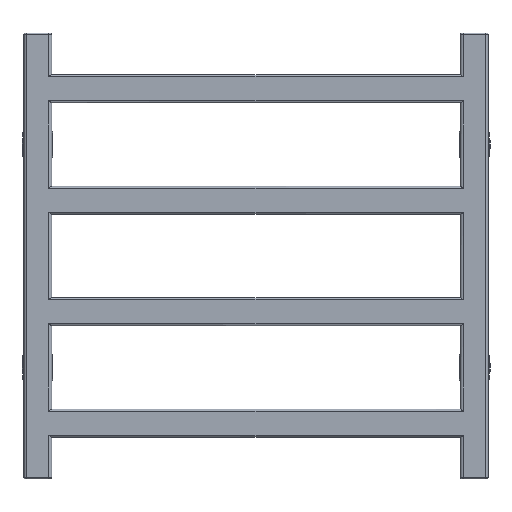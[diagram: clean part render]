
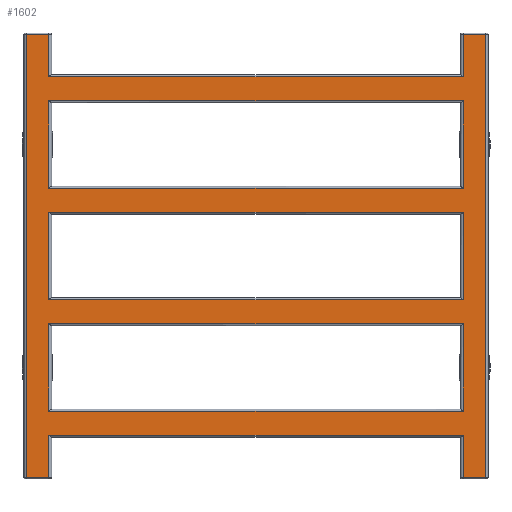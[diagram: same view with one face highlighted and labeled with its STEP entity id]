
A CAD part, front view. The second image highlights one B-rep face of the part: STEP entity #1602.
In plain terms, the highlighted planar face has unit normal (0, -1, 0).
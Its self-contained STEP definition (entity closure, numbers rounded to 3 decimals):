
#881=CARTESIAN_POINT('',(247.,-15.,478.5));
#882=VERTEX_POINT('',#881);
#891=CARTESIAN_POINT('',(223.,-15.,478.5));
#892=VERTEX_POINT('',#891);
#900=CARTESIAN_POINT('',(223.,-15.,478.5));
#901=DIRECTION('',(1.0,0.0,0.0));
#902=VECTOR('',#901,24.);
#903=LINE('',#900,#902);
#904=EDGE_CURVE('',#892,#882,#903,.T.);
#1394=CARTESIAN_POINT('',(247.,-15.,1.5));
#1395=VERTEX_POINT('',#1394);
#1396=CARTESIAN_POINT('',(247.,-15.,1.5));
#1397=DIRECTION('',(0.0,0.0,1.0));
#1398=VECTOR('',#1397,477.0);
#1399=LINE('',#1396,#1398);
#1400=EDGE_CURVE('',#1395,#882,#1399,.T.);
#1413=CARTESIAN_POINT('',(247.,-15.,0.0));
#1414=DIRECTION('',(0.0,-1.0,0.0));
#1415=DIRECTION('',(0.0,0.0,-1.0));
#1416=AXIS2_PLACEMENT_3D('',#1413,#1414,#1415);
#1417=PLANE('',#1416);
#1418=ORIENTED_EDGE('',*,*,#904,.F.);
#1419=CARTESIAN_POINT('',(223.,-15.,433.));
#1420=VERTEX_POINT('',#1419);
#1421=CARTESIAN_POINT('',(223.,-15.,433.));
#1422=DIRECTION('',(0.0,0.0,1.0));
#1423=VECTOR('',#1422,45.5);
#1424=LINE('',#1421,#1423);
#1425=EDGE_CURVE('',#1420,#892,#1424,.T.);
#1426=ORIENTED_EDGE('',*,*,#1425,.F.);
#1427=CARTESIAN_POINT('',(-223.,-15.,433.));
#1428=VERTEX_POINT('',#1427);
#1429=CARTESIAN_POINT('',(223.,-15.,433.0));
#1430=DIRECTION('',(-1.0,0.0,0.0));
#1431=VECTOR('',#1430,446.);
#1432=LINE('',#1429,#1431);
#1433=EDGE_CURVE('',#1420,#1428,#1432,.T.);
#1434=ORIENTED_EDGE('',*,*,#1433,.T.);
#1435=CARTESIAN_POINT('',(-223.,-15.,478.5));
#1436=VERTEX_POINT('',#1435);
#1437=CARTESIAN_POINT('',(-223.,-15.,433.));
#1438=DIRECTION('',(0.0,0.0,1.0));
#1439=VECTOR('',#1438,45.5);
#1440=LINE('',#1437,#1439);
#1441=EDGE_CURVE('',#1428,#1436,#1440,.T.);
#1442=ORIENTED_EDGE('',*,*,#1441,.T.);
#1443=CARTESIAN_POINT('',(-247.,-15.,478.5));
#1444=VERTEX_POINT('',#1443);
#1445=CARTESIAN_POINT('',(-247.,-15.,478.5));
#1446=DIRECTION('',(1.0,0.0,0.0));
#1447=VECTOR('',#1446,24.);
#1448=LINE('',#1445,#1447);
#1449=EDGE_CURVE('',#1444,#1436,#1448,.T.);
#1450=ORIENTED_EDGE('',*,*,#1449,.F.);
#1451=CARTESIAN_POINT('',(-247.,-15.,1.5));
#1452=VERTEX_POINT('',#1451);
#1453=CARTESIAN_POINT('',(-247.,-15.,1.5));
#1454=DIRECTION('',(0.0,0.0,1.0));
#1455=VECTOR('',#1454,477.0);
#1456=LINE('',#1453,#1455);
#1457=EDGE_CURVE('',#1452,#1444,#1456,.T.);
#1458=ORIENTED_EDGE('',*,*,#1457,.F.);
#1459=CARTESIAN_POINT('',(-223.,-15.,1.5));
#1460=VERTEX_POINT('',#1459);
#1461=CARTESIAN_POINT('',(-223.0,-15.,1.5));
#1462=DIRECTION('',(-1.0,0.0,0.0));
#1463=VECTOR('',#1462,24.);
#1464=LINE('',#1461,#1463);
#1465=EDGE_CURVE('',#1460,#1452,#1464,.T.);
#1466=ORIENTED_EDGE('',*,*,#1465,.F.);
#1467=CARTESIAN_POINT('',(-223.,-15.,47.));
#1468=VERTEX_POINT('',#1467);
#1469=CARTESIAN_POINT('',(-223.,-15.,1.5));
#1470=DIRECTION('',(0.0,0.0,1.0));
#1471=VECTOR('',#1470,45.5);
#1472=LINE('',#1469,#1471);
#1473=EDGE_CURVE('',#1460,#1468,#1472,.T.);
#1474=ORIENTED_EDGE('',*,*,#1473,.T.);
#1475=CARTESIAN_POINT('',(223.,-15.,47.));
#1476=VERTEX_POINT('',#1475);
#1477=CARTESIAN_POINT('',(-223.,-15.,47.));
#1478=DIRECTION('',(1.0,0.0,0.0));
#1479=VECTOR('',#1478,446.);
#1480=LINE('',#1477,#1479);
#1481=EDGE_CURVE('',#1468,#1476,#1480,.T.);
#1482=ORIENTED_EDGE('',*,*,#1481,.T.);
#1483=CARTESIAN_POINT('',(223.,-15.,1.5));
#1484=VERTEX_POINT('',#1483);
#1485=CARTESIAN_POINT('',(223.,-15.,1.5));
#1486=DIRECTION('',(0.0,0.0,1.0));
#1487=VECTOR('',#1486,45.5);
#1488=LINE('',#1485,#1487);
#1489=EDGE_CURVE('',#1484,#1476,#1488,.T.);
#1490=ORIENTED_EDGE('',*,*,#1489,.F.);
#1491=CARTESIAN_POINT('',(247.,-15.,1.5));
#1492=DIRECTION('',(-1.0,0.0,0.0));
#1493=VECTOR('',#1492,24.);
#1494=LINE('',#1491,#1493);
#1495=EDGE_CURVE('',#1395,#1484,#1494,.T.);
#1496=ORIENTED_EDGE('',*,*,#1495,.F.);
#1497=ORIENTED_EDGE('',*,*,#1400,.T.);
#1498=EDGE_LOOP('',(#1418,#1426,#1434,#1442,#1450,#1458,#1466,#1474,#1482,#1490,#1496,#1497));
#1499=FACE_OUTER_BOUND('',#1498,.T.);
#1500=CARTESIAN_POINT('',(-223.,-15.,73.));
#1501=VERTEX_POINT('',#1500);
#1502=CARTESIAN_POINT('',(223.,-15.,73.));
#1503=VERTEX_POINT('',#1502);
#1504=CARTESIAN_POINT('',(-223.,-15.,73.));
#1505=DIRECTION('',(1.0,0.0,0.0));
#1506=VECTOR('',#1505,446.);
#1507=LINE('',#1504,#1506);
#1508=EDGE_CURVE('',#1501,#1503,#1507,.T.);
#1509=ORIENTED_EDGE('',*,*,#1508,.F.);
#1510=CARTESIAN_POINT('',(-223.,-15.,167.));
#1511=VERTEX_POINT('',#1510);
#1512=CARTESIAN_POINT('',(-223.,-15.,73.));
#1513=DIRECTION('',(0.0,0.0,1.0));
#1514=VECTOR('',#1513,94.);
#1515=LINE('',#1512,#1514);
#1516=EDGE_CURVE('',#1501,#1511,#1515,.T.);
#1517=ORIENTED_EDGE('',*,*,#1516,.T.);
#1518=CARTESIAN_POINT('',(223.,-15.,167.));
#1519=VERTEX_POINT('',#1518);
#1520=CARTESIAN_POINT('',(223.,-15.,167.));
#1521=DIRECTION('',(-1.0,0.0,0.0));
#1522=VECTOR('',#1521,446.);
#1523=LINE('',#1520,#1522);
#1524=EDGE_CURVE('',#1519,#1511,#1523,.T.);
#1525=ORIENTED_EDGE('',*,*,#1524,.F.);
#1526=CARTESIAN_POINT('',(223.,-15.,73.));
#1527=DIRECTION('',(0.0,0.0,1.0));
#1528=VECTOR('',#1527,94.);
#1529=LINE('',#1526,#1528);
#1530=EDGE_CURVE('',#1503,#1519,#1529,.T.);
#1531=ORIENTED_EDGE('',*,*,#1530,.F.);
#1532=EDGE_LOOP('',(#1509,#1517,#1525,#1531));
#1533=FACE_BOUND('',#1532,.T.);
#1534=CARTESIAN_POINT('',(223.,-15.,313.0));
#1535=VERTEX_POINT('',#1534);
#1536=CARTESIAN_POINT('',(223.,-15.,407.0));
#1537=VERTEX_POINT('',#1536);
#1538=CARTESIAN_POINT('',(223.,-15.,313.0));
#1539=DIRECTION('',(0.0,0.0,1.0));
#1540=VECTOR('',#1539,94.0);
#1541=LINE('',#1538,#1540);
#1542=EDGE_CURVE('',#1535,#1537,#1541,.T.);
#1543=ORIENTED_EDGE('',*,*,#1542,.F.);
#1544=CARTESIAN_POINT('',(-223.,-15.,313.0));
#1545=VERTEX_POINT('',#1544);
#1546=CARTESIAN_POINT('',(223.,-15.,313.0));
#1547=DIRECTION('',(-1.0,0.0,0.0));
#1548=VECTOR('',#1547,446.);
#1549=LINE('',#1546,#1548);
#1550=EDGE_CURVE('',#1535,#1545,#1549,.T.);
#1551=ORIENTED_EDGE('',*,*,#1550,.T.);
#1552=CARTESIAN_POINT('',(-223.,-15.,407.0));
#1553=VERTEX_POINT('',#1552);
#1554=CARTESIAN_POINT('',(-223.,-15.,313.0));
#1555=DIRECTION('',(0.0,0.0,1.0));
#1556=VECTOR('',#1555,94.0);
#1557=LINE('',#1554,#1556);
#1558=EDGE_CURVE('',#1545,#1553,#1557,.T.);
#1559=ORIENTED_EDGE('',*,*,#1558,.T.);
#1560=CARTESIAN_POINT('',(223.,-15.,407.0));
#1561=DIRECTION('',(-1.0,0.0,0.0));
#1562=VECTOR('',#1561,446.);
#1563=LINE('',#1560,#1562);
#1564=EDGE_CURVE('',#1537,#1553,#1563,.T.);
#1565=ORIENTED_EDGE('',*,*,#1564,.F.);
#1566=EDGE_LOOP('',(#1543,#1551,#1559,#1565));
#1567=FACE_BOUND('',#1566,.T.);
#1568=CARTESIAN_POINT('',(223.,-15.,193.));
#1569=VERTEX_POINT('',#1568);
#1570=CARTESIAN_POINT('',(223.,-15.,287.0));
#1571=VERTEX_POINT('',#1570);
#1572=CARTESIAN_POINT('',(223.,-15.,193.));
#1573=DIRECTION('',(0.0,0.0,1.0));
#1574=VECTOR('',#1573,94.);
#1575=LINE('',#1572,#1574);
#1576=EDGE_CURVE('',#1569,#1571,#1575,.T.);
#1577=ORIENTED_EDGE('',*,*,#1576,.F.);
#1578=CARTESIAN_POINT('',(-223.,-15.,193.));
#1579=VERTEX_POINT('',#1578);
#1580=CARTESIAN_POINT('',(223.,-15.,193.));
#1581=DIRECTION('',(-1.0,0.0,0.0));
#1582=VECTOR('',#1581,446.);
#1583=LINE('',#1580,#1582);
#1584=EDGE_CURVE('',#1569,#1579,#1583,.T.);
#1585=ORIENTED_EDGE('',*,*,#1584,.T.);
#1586=CARTESIAN_POINT('',(-223.,-15.,287.0));
#1587=VERTEX_POINT('',#1586);
#1588=CARTESIAN_POINT('',(-223.,-15.,193.));
#1589=DIRECTION('',(0.0,0.0,1.0));
#1590=VECTOR('',#1589,94.);
#1591=LINE('',#1588,#1590);
#1592=EDGE_CURVE('',#1579,#1587,#1591,.T.);
#1593=ORIENTED_EDGE('',*,*,#1592,.T.);
#1594=CARTESIAN_POINT('',(223.,-15.,287.0));
#1595=DIRECTION('',(-1.0,0.0,0.0));
#1596=VECTOR('',#1595,446.);
#1597=LINE('',#1594,#1596);
#1598=EDGE_CURVE('',#1571,#1587,#1597,.T.);
#1599=ORIENTED_EDGE('',*,*,#1598,.F.);
#1600=EDGE_LOOP('',(#1577,#1585,#1593,#1599));
#1601=FACE_BOUND('',#1600,.T.);
#1602=ADVANCED_FACE('',(#1499,#1533,#1567,#1601),#1417,.T.);
